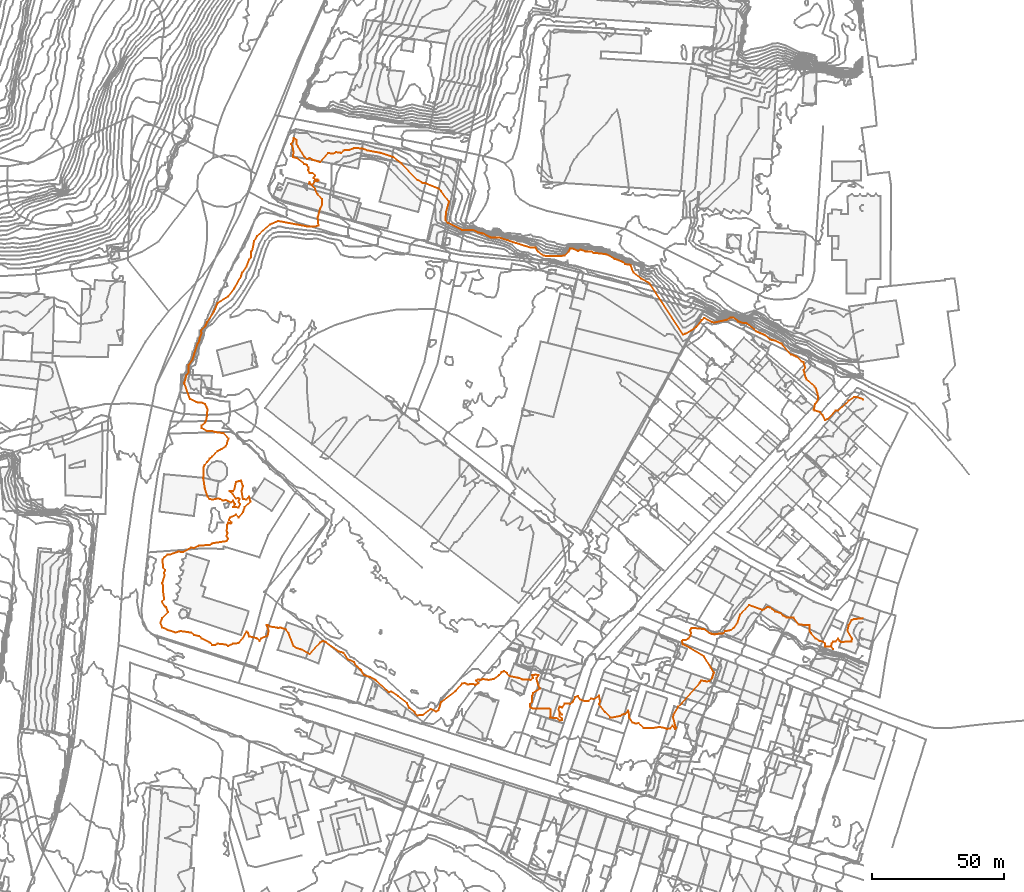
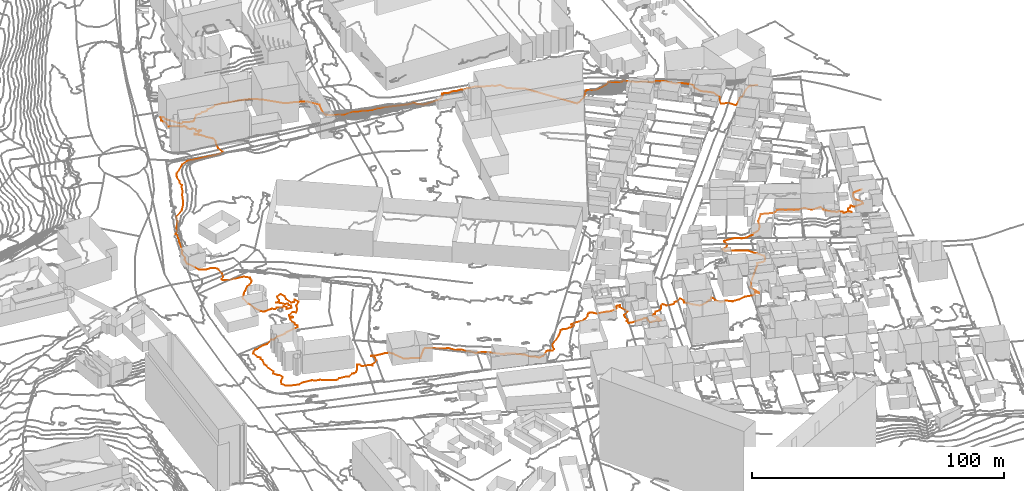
# Not in any storey, part 260 of 419: 1 proxy.
"""IFC2X3 model written with IfcOpenShell, lengths in metres."""

from ifc_helpers import new_model, entity, si_unit, frame, origin_with_axes, place, context, subcontext, project, element, save


model = new_model("IFC2X3")

# Units and contexts
model_context = context("Model", 3, precision=1e-05, world=origin_with_axes())
body_context = subcontext(model_context, "Body", "Model", "MODEL_VIEW")
ifc_project = project(units=[si_unit("AREAUNIT", "SQUARE_METRE"), si_unit("LENGTHUNIT", "METRE")], contexts=[model_context])

# Proxy
proxy_placement = place(None, frame((709.3777424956, 217.8976909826, 78.0), z_axis=(0.0, 0.0, 1.0), x_axis=(1.0, 0.0, 0.0)))
element("IfcBuildingElementProxy", 1, at=proxy_placement, Name="Contour 78.0 m", ObjectType="NOTDEFINED", context=body_context, shape_type="GeometricCurveSet", body=[
    entity("IfcGeometricCurveSet", [entity("IfcPolyline", [entity("IfcCartesianPoint", [267.2142779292, 1.666666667, 0.0]), entity("IfcCartesianPoint", [263.7142779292, 1.333333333, 0.0]), entity("IfcCartesianPoint", [262.7577648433, 1.0, 0.0]), entity("IfcCartesianPoint", [261.6857002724, -1.0, 0.0]), entity("IfcCartesianPoint", [261.1934482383, -3.0, 0.0]), entity("IfcCartesianPoint", [262.9423434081, -6.0, 0.0]), entity("IfcCartesianPoint", [262.7142779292, -7.2221939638, 0.0]), entity("IfcCartesianPoint", [258.7142779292, -7.333333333, 0.0]), entity("IfcCartesianPoint", [258.2142654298, -7.0, 0.0]), entity("IfcCartesianPoint", [257.7142779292, -6.0000249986, 0.0]), entity("IfcCartesianPoint", [256.7142779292, -7.1428882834, 0.0]), entity("IfcCartesianPoint", [255.7142779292, -7.2000305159, 0.0]), entity("IfcCartesianPoint", [255.2142904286, -8.0, 0.0]), entity("IfcCartesianPoint", [254.9643256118, -9.0, 0.0]), entity("IfcCartesianPoint", [255.7142779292, -10.0090109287, 0.0]), entity("IfcCartesianPoint", [254.7142779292, -9.0270325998, 0.0]), entity("IfcCartesianPoint", [252.7142779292, -9.0833298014, 0.0]), entity("IfcCartesianPoint", [252.7142754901, -8.0, 0.0]), entity("IfcCartesianPoint", [251.7142779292, -7.1632672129, 0.0]), entity("IfcCartesianPoint", [250.5714441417, -7.0, 0.0]), entity("IfcCartesianPoint", [249.1142474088, -6.0, 0.0]), entity("IfcCartesianPoint", [247.3143084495, -4.0, 0.0]), entity("IfcCartesianPoint", [246.8393017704, -3.0, 0.0]), entity("IfcCartesianPoint", [246.7142779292, -1.0000500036, 0.0]), entity("IfcCartesianPoint", [242.7142779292, -0.7500238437, 0.0]), entity("IfcCartesianPoint", [240.7142779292, 1.8333121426, 0.0]), entity("IfcCartesianPoint", [238.047696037, 2.0, 0.0]), entity("IfcCartesianPoint", [236.7142779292, 2.6250238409, 0.0]), entity("IfcCartesianPoint", [235.7142779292, 3.5714441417, 0.0]), entity("IfcCartesianPoint", [233.7142779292, 4.2727146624, 0.0]), entity("IfcCartesianPoint", [231.7142779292, 5.7778060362, 0.0]), entity("IfcCartesianPoint", [230.7142779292, 5.9166507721, 0.0]), entity("IfcCartesianPoint", [229.3809869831, 5.0, 0.0]), entity("IfcCartesianPoint", [228.7142779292, 4.8518508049, 0.0]), entity("IfcCartesianPoint", [223.7142779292, 6.7391362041, 0.0]), entity("IfcCartesianPoint", [220.4142855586, 3.0, 0.0]), entity("IfcCartesianPoint", [219.3392689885, 0.0, 0.0]), entity("IfcCartesianPoint", [217.9751417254, -2.0, 0.0]), entity("IfcCartesianPoint", [216.7142779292, -2.8787857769, 0.0]), entity("IfcCartesianPoint", [214.7142779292, -3.2963025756, 0.0]), entity("IfcCartesianPoint", [213.7142779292, -4.1770815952, 0.0]), entity("IfcCartesianPoint", [212.7142779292, -4.0800018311, 0.0]), entity("IfcCartesianPoint", [210.7142779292, -4.4629621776, 0.0]), entity("IfcCartesianPoint", [209.7142779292, -4.2857133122, 0.0]), entity("IfcCartesianPoint", [208.7142779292, -4.0140875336, 0.0]), entity("IfcCartesianPoint", [206.7142779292, -2.475410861, 0.0]), entity("IfcCartesianPoint", [202.2143279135, -2.0, 0.0]), entity("IfcCartesianPoint", [201.7142779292, -2.3334181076, 0.0]), entity("IfcCartesianPoint", [201.4643017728, -3.0, 0.0]), entity("IfcCartesianPoint", [201.7142850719, -4.0, 0.0]), entity("IfcCartesianPoint", [201.5143084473, -5.0, 0.0]), entity("IfcCartesianPoint", [200.7142879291, -6.0, 0.0]), entity("IfcCartesianPoint", [199.7142779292, -6.666666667, 0.0]), entity("IfcCartesianPoint", [198.7142779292, -6.666666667, 0.0]), entity("IfcCartesianPoint", [198.3809445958, -7.0, 0.0]), entity("IfcCartesianPoint", [198.5198346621, -8.0, 0.0]), entity("IfcCartesianPoint", [198.7142779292, -8.3684147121, 0.0]), entity("IfcCartesianPoint", [199.7142779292, -8.714332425, 0.0]), entity("IfcCartesianPoint", [206.7142779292, -12.8500038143, 0.0]), entity("IfcCartesianPoint", [210.4342791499, -19.0, 0.0]), entity("IfcCartesianPoint", [209.7755001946, -21.0, 0.0]), entity("IfcCartesianPoint", [208.7142779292, -22.1999949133, 0.0]), entity("IfcCartesianPoint", [207.7142779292, -22.3703693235, 0.0]), entity("IfcCartesianPoint", [205.5142657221, -22.0, 0.0]), entity("IfcCartesianPoint", [205.0267898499, -23.0, 0.0]), entity("IfcCartesianPoint", [196.8809375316, -32.0, 0.0]), entity("IfcCartesianPoint", [195.0672085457, -35.0, 0.0]), entity("IfcCartesianPoint", [194.9065957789, -36.0, 0.0]), entity("IfcCartesianPoint", [195.9942767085, -40.0, 0.0]), entity("IfcCartesianPoint", [195.7142779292, -40.4666598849, 0.0]), entity("IfcCartesianPoint", [194.7142779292, -39.0769366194, 0.0]), entity("IfcCartesianPoint", [193.7142779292, -40.1999694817, 0.0]), entity("IfcCartesianPoint", [192.7142779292, -40.3912956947, 0.0]), entity("IfcCartesianPoint", [189.7142779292, -39.6750019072, 0.0]), entity("IfcCartesianPoint", [186.7142779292, -40.1562596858, 0.0]), entity("IfcCartesianPoint", [183.7142779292, -40.0000022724, 0.0]), entity("IfcCartesianPoint", [181.7142779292, -38.2142779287, 0.0]), entity("IfcCartesianPoint", [180.7142779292, -38.3888865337, 0.0]), entity("IfcCartesianPoint", [179.4642779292, -38.0, 0.0]), entity("IfcCartesianPoint", [178.2142707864, -36.0, 0.0]), entity("IfcCartesianPoint", [178.0476112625, -34.0, 0.0]), entity("IfcCartesianPoint", [177.7142779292, -33.5000124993, 0.0]), entity("IfcCartesianPoint", [176.7142779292, -34.79165872, 0.0]), entity("IfcCartesianPoint", [175.7142779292, -34.8695681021, 0.0]), entity("IfcCartesianPoint", [174.7142779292, -35.4706040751, 0.0]), entity("IfcCartesianPoint", [171.7142779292, -36.1052483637, 0.0]), entity("IfcCartesianPoint", [171.047696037, -36.0, 0.0]), entity("IfcCartesianPoint", [169.047696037, -34.0, 0.0]), entity("IfcCartesianPoint", [166.7142779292, -31.0000500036, 0.0]), entity("IfcCartesianPoint", [167.2142279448, -30.0, 0.0]), entity("IfcCartesianPoint", [166.7142779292, -27.8000305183, 0.0]), entity("IfcCartesianPoint", [164.7142779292, -29.1111299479, 0.0]), entity("IfcCartesianPoint", [163.7142779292, -28.8333545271, 0.0]), entity("IfcCartesianPoint", [162.7142779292, -29.8571117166, 0.0]), entity("IfcCartesianPoint", [160.7142779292, -29.714332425, 0.0]), entity("IfcCartesianPoint", [159.7142779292, -29.3332909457, 0.0]), entity("IfcCartesianPoint", [158.7142779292, -27.9166507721, 0.0]), entity("IfcCartesianPoint", [157.7142779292, -28.2666700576, 0.0]), entity("IfcCartesianPoint", [156.7142779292, -30.2500476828, 0.0]), entity("IfcCartesianPoint", [155.7142779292, -30.8666836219, 0.0]), entity("IfcCartesianPoint", [153.7142779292, -30.8461764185, 0.0]), entity("IfcCartesianPoint", [152.7142779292, -32.2000000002, 0.0]), entity("IfcCartesianPoint", [151.6772335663, -32.0, 0.0]), entity("IfcCartesianPoint", [151.3664489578, -33.0, 0.0]), entity("IfcCartesianPoint", [151.7142779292, -33.8888700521, 0.0]), entity("IfcCartesianPoint", [152.7142904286, -35.0, 0.0]), entity("IfcCartesianPoint", [151.7142779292, -34.2500476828, 0.0]), entity("IfcCartesianPoint", [151.7142779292, -35.7499523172, 0.0]), entity("IfcCartesianPoint", [152.7142779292, -36.4999500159, 0.0]), entity("IfcCartesianPoint", [152.7142779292, -37.0526421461, 0.0]), entity("IfcCartesianPoint", [151.7142779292, -37.1578894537, 0.0]), entity("IfcCartesianPoint", [150.7142779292, -36.3529306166, 0.0]), entity("IfcCartesianPoint", [148.7142779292, -36.1739144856, 0.0]), entity("IfcCartesianPoint", [148.2142654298, -36.0, 0.0]), entity("IfcCartesianPoint", [148.3809869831, -33.0, 0.0]), entity("IfcCartesianPoint", [147.7142779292, -32.7333299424, 0.0]), entity("IfcCartesianPoint", [141.7142779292, -32.666666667, 0.0]), entity("IfcCartesianPoint", [140.7142779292, -32.3749940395, 0.0]), entity("IfcCartesianPoint", [140.5207358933, -32.0, 0.0]), entity("IfcCartesianPoint", [140.4851115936, -31.0, 0.0]), entity("IfcCartesianPoint", [141.325391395, -30.0, 0.0]), entity("IfcCartesianPoint", [141.370525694, -28.0, 0.0]), entity("IfcCartesianPoint", [141.7142779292, -26.7272853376, 0.0]), entity("IfcCartesianPoint", [144.3143084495, -25.0, 0.0]), entity("IfcCartesianPoint", [143.7142612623, -24.0, 0.0]), entity("IfcCartesianPoint", [142.9642779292, -21.0, 0.0]), entity("IfcCartesianPoint", [143.8506352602, -20.0, 0.0]), entity("IfcCartesianPoint", [142.7142779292, -19.7692352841, 0.0]), entity("IfcCartesianPoint", [141.3296535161, -20.0, 0.0]), entity("IfcCartesianPoint", [141.6373413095, -21.0, 0.0]), entity("IfcCartesianPoint", [140.7142779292, -21.75, 0.0]), entity("IfcCartesianPoint", [137.7142779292, -21.5833174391, 0.0]), entity("IfcCartesianPoint", [136.2142529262, -21.0, 0.0]), entity("IfcCartesianPoint", [132.7142779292, -20.3749761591, 0.0]), entity("IfcCartesianPoint", [131.7142779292, -19.1250238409, 0.0]), entity("IfcCartesianPoint", [130.7142779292, -18.5000499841, 0.0]), entity("IfcCartesianPoint", [129.7142779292, -18.75, 0.0]), entity("IfcCartesianPoint", [128.7142779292, -20.0000099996, 0.0]), entity("IfcCartesianPoint", [126.7142779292, -21.4583399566, 0.0]), entity("IfcCartesianPoint", [124.7142779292, -21.7812507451, 0.0]), entity("IfcCartesianPoint", [122.7142779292, -21.5000083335, 0.0]), entity("IfcCartesianPoint", [121.7142779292, -21.75, 0.0]), entity("IfcCartesianPoint", [120.7142779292, -21.6363573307, 0.0]), entity("IfcCartesianPoint", [120.0989023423, -22.0, 0.0]), entity("IfcCartesianPoint", [120.9643256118, -23.0, 0.0]), entity("IfcCartesianPoint", [119.7142779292, -23.6665818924, 0.0]), entity("IfcCartesianPoint", [118.7142779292, -23.3334181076, 0.0]), entity("IfcCartesianPoint", [116.7142779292, -23.5000250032, 0.0]), entity("IfcCartesianPoint", [115.7142779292, -23.0000099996, 0.0]), entity("IfcCartesianPoint", [114.7142779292, -23.1428882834, 0.0]), entity("IfcCartesianPoint", [112.1587255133, -26.0, 0.0]), entity("IfcCartesianPoint", [106.7142779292, -30.2272737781, 0.0]), entity("IfcCartesianPoint", [105.7142779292, -33.2727146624, 0.0]), entity("IfcCartesianPoint", [104.7142779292, -33.8923084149, 0.0]), entity("IfcCartesianPoint", [102.7142779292, -32.8196713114, 0.0]), entity("IfcCartesianPoint", [99.7142779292, -35.1578862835, 0.0]), entity("IfcCartesianPoint", [97.7142779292, -35.2500095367, 0.0]), entity("IfcCartesianPoint", [96.59664935, -34.0, 0.0]), entity("IfcCartesianPoint", [94.7142779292, -32.5624910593, 0.0]), entity("IfcCartesianPoint", [93.7142779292, -30.638302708, 0.0]), entity("IfcCartesianPoint", [90.4511073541, -28.0, 0.0]), entity("IfcCartesianPoint", [87.7142779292, -26.1999898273, 0.0]), entity("IfcCartesianPoint", [86.7142779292, -26.4166825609, 0.0]), entity("IfcCartesianPoint", [81.7142779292, -21.7878808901, 0.0]), entity("IfcCartesianPoint", [79.7142779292, -20.6874990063, 0.0]), entity("IfcCartesianPoint", [77.4065720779, -20.0, 0.0]), entity("IfcCartesianPoint", [76.3447159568, -18.0, 0.0]), entity("IfcCartesianPoint", [74.7142779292, -16.7400054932, 0.0]), entity("IfcCartesianPoint", [73.6872453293, -15.0, 0.0]), entity("IfcCartesianPoint", [71.3342730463, -14.0, 0.0]), entity("IfcCartesianPoint", [69.7142779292, -11.513891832, 0.0]), entity("IfcCartesianPoint", [67.7142779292, -10.9649181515, 0.0]), entity("IfcCartesianPoint", [62.7142779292, -7.3559328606, 0.0]), entity("IfcCartesianPoint", [61.7142779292, -6.9722163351, 0.0]), entity("IfcCartesianPoint", [60.7142779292, -7.5000099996, 0.0]), entity("IfcCartesianPoint", [56.7142779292, -12.0000099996, 0.0]), entity("IfcCartesianPoint", [53.7142779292, -10.1999694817, 0.0]), entity("IfcCartesianPoint", [51.7142779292, -9.7000076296, 0.0]), entity("IfcCartesianPoint", [50.7142779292, -9.0000199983, 0.0]), entity("IfcCartesianPoint", [48.7142679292, -4.0, 0.0]), entity("IfcCartesianPoint", [47.7142779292, -2.5999847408, 0.0]), entity("IfcCartesianPoint", [45.7142779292, -1.9166507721, 0.0]), entity("IfcCartesianPoint", [44.7142779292, -2.0000111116, 0.0]), entity("IfcCartesianPoint", [41.7142779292, -1.5000083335, 0.0]), entity("IfcCartesianPoint", [40.7142779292, -0.9000152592, 0.0]), entity("IfcCartesianPoint", [40.3809869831, -1.0, 0.0]), entity("IfcCartesianPoint", [41.2142879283, -3.0, 0.0]), entity("IfcCartesianPoint", [40.7142850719, -5.0, 0.0]), entity("IfcCartesianPoint", [38.2143029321, -6.0, 0.0]), entity("IfcCartesianPoint", [37.7142779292, -7.0000249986, 0.0]), entity("IfcCartesianPoint", [36.7142779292, -6.0000249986, 0.0]), entity("IfcCartesianPoint", [33.7142779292, -5.2500476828, 0.0]), entity("IfcCartesianPoint", [33.4286103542, -4.0, 0.0]), entity("IfcCartesianPoint", [32.7142779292, -3.3749761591, 0.0]), entity("IfcCartesianPoint", [31.2143279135, -6.0, 0.0]), entity("IfcCartesianPoint", [29.7142779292, -7.714332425, 0.0]), entity("IfcCartesianPoint", [28.7142779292, -8.0000124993, 0.0]), entity("IfcCartesianPoint", [27.7142779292, -7.8999771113, 0.0]), entity("IfcCartesianPoint", [25.7142779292, -8.8749761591, 0.0]), entity("IfcCartesianPoint", [24.7142779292, -8.3334181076, 0.0]), entity("IfcCartesianPoint", [21.7142779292, -8.0000090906, 0.0]), entity("IfcCartesianPoint", [20.7142779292, -8.5238147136, 0.0]), entity("IfcCartesianPoint", [19.7142779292, -8.4615294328, 0.0]), entity("IfcCartesianPoint", [18.7142779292, -7.5624910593, 0.0]), entity("IfcCartesianPoint", [15.7142779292, -6.0000124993, 0.0]), entity("IfcCartesianPoint", [14.7142779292, -5.1666878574, 0.0]), entity("IfcCartesianPoint", [12.7142779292, -4.6363573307, 0.0]), entity("IfcCartesianPoint", [11.7142779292, -3.8125029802, 0.0]), entity("IfcCartesianPoint", [7.7142779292, -3.25, 0.0]), entity("IfcCartesianPoint", [5.7142779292, -3.75, 0.0]), entity("IfcCartesianPoint", [2.7142779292, -2.8182007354, 0.0]), entity("IfcCartesianPoint", [0.7142779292, -1.7857220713, 0.0]), entity("IfcCartesianPoint", [0.0, 0.0, 0.0]), entity("IfcCartesianPoint", [0.7142779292, 1.8000305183, 0.0]), entity("IfcCartesianPoint", [2.8254078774, 4.0, 0.0]), entity("IfcCartesianPoint", [2.2142279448, 6.0, 0.0]), entity("IfcCartesianPoint", [1.7142779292, 6.2000305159, 0.0]), entity("IfcCartesianPoint", [0.5714441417, 8.0, 0.0]), entity("IfcCartesianPoint", [1.4643017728, 9.0, 0.0]), entity("IfcCartesianPoint", [1.0142702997, 12.0, 0.0]), entity("IfcCartesianPoint", [1.0476282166, 14.0, 0.0]), entity("IfcCartesianPoint", [0.7142707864, 15.0, 0.0]), entity("IfcCartesianPoint", [1.6142550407, 18.0, 0.0]), entity("IfcCartesianPoint", [1.3809445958, 19.0, 0.0]), entity("IfcCartesianPoint", [1.8571662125, 20.0, 0.0]), entity("IfcCartesianPoint", [1.0142702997, 21.0, 0.0]), entity("IfcCartesianPoint", [0.8393017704, 24.0, 0.0]), entity("IfcCartesianPoint", [1.5475900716, 25.0, 0.0]), entity("IfcCartesianPoint", [2.7142779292, 25.8095186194, 0.0]), entity("IfcCartesianPoint", [3.7142779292, 25.9000152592, 0.0]), entity("IfcCartesianPoint", [6.7142779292, 26.9687432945, 0.0]), entity("IfcCartesianPoint", [8.7142779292, 26.8235346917, 0.0]), entity("IfcCartesianPoint", [11.7142779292, 28.5293959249, 0.0]), entity("IfcCartesianPoint", [12.7142779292, 28.333333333, 0.0]), entity("IfcCartesianPoint", [14.7142779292, 29.2727146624, 0.0]), entity("IfcCartesianPoint", [18.7142779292, 29.5333401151, 0.0]), entity("IfcCartesianPoint", [19.7142779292, 30.1428882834, 0.0]), entity("IfcCartesianPoint", [25.2142279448, 31.0, 0.0]), entity("IfcCartesianPoint", [25.7142445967, 32.0, 0.0]), entity("IfcCartesianPoint", [25.1142474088, 33.0, 0.0]), entity("IfcCartesianPoint", [25.4642302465, 34.0, 0.0]), entity("IfcCartesianPoint", [25.2142529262, 35.0, 0.0]), entity("IfcCartesianPoint", [25.3808598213, 37.0, 0.0]), entity("IfcCartesianPoint", [25.7142779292, 38.0000999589, 0.0]), entity("IfcCartesianPoint", [26.7142779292, 37.60003052, 0.0]), entity("IfcCartesianPoint", [27.1142474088, 38.0, 0.0]), entity("IfcCartesianPoint", [26.047696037, 39.0, 0.0]), entity("IfcCartesianPoint", [26.4642302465, 40.0, 0.0]), entity("IfcCartesianPoint", [28.7142779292, 41.0000249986, 0.0]), entity("IfcCartesianPoint", [29.7142779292, 40.0000999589, 0.0]), entity("IfcCartesianPoint", [31.4286103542, 42.0, 0.0]), entity("IfcCartesianPoint", [32.0475688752, 44.0, 0.0]), entity("IfcCartesianPoint", [34.2142529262, 46.0, 0.0]), entity("IfcCartesianPoint", [33.7142779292, 47.9999499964, 0.0]), entity("IfcCartesianPoint", [32.7142779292, 46.7999694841, 0.0]), entity("IfcCartesianPoint", [31.3808598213, 47.0, 0.0]), entity("IfcCartesianPoint", [30.8809657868, 50.0, 0.0]), entity("IfcCartesianPoint", [31.3808598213, 52.0, 0.0]), entity("IfcCartesianPoint", [30.7142779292, 53.9999000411, 0.0]), entity("IfcCartesianPoint", [28.7142779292, 53.4999500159, 0.0]), entity("IfcCartesianPoint", [28.2142904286, 51.0, 0.0]), entity("IfcCartesianPoint", [27.7142779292, 49.9999000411, 0.0]), entity("IfcCartesianPoint", [26.2143029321, 50.0, 0.0]), entity("IfcCartesianPoint", [27.4642302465, 49.0, 0.0]), entity("IfcCartesianPoint", [28.7142779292, 47.2000305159, 0.0]), entity("IfcCartesianPoint", [29.7142779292, 47.3334181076, 0.0]), entity("IfcCartesianPoint", [30.047696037, 47.0, 0.0]), entity("IfcCartesianPoint", [29.7143778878, 46.0, 0.0]), entity("IfcCartesianPoint", [30.3809869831, 45.0, 0.0]), entity("IfcCartesianPoint", [29.7142779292, 43.7499523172, 0.0]), entity("IfcCartesianPoint", [27.7142579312, 44.0, 0.0]), entity("IfcCartesianPoint", [28.3143084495, 45.0, 0.0]), entity("IfcCartesianPoint", [27.7142779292, 46.3334181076, 0.0]), entity("IfcCartesianPoint", [26.7142779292, 45.666666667, 0.0]), entity("IfcCartesianPoint", [24.7142779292, 46.6667090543, 0.0]), entity("IfcCartesianPoint", [23.7142779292, 46.3334181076, 0.0]), entity("IfcCartesianPoint", [22.7141779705, 47.0, 0.0]), entity("IfcCartesianPoint", [21.7142779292, 47.1428882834, 0.0]), entity("IfcCartesianPoint", [19.7142779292, 46.7499523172, 0.0]), entity("IfcCartesianPoint", [18.7142779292, 46.9999900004, 0.0]), entity("IfcCartesianPoint", [17.9364718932, 48.0, 0.0]), entity("IfcCartesianPoint", [16.9142474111, 51.0, 0.0]), entity("IfcCartesianPoint", [16.3142779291, 55.0, 0.0]), entity("IfcCartesianPoint", [16.4039385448, 59.0, 0.0]), entity("IfcCartesianPoint", [16.7142779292, 59.8999771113, 0.0]), entity("IfcCartesianPoint", [17.8254078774, 61.0, 0.0]), entity("IfcCartesianPoint", [18.7142779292, 62.4000152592, 0.0]), entity("IfcCartesianPoint", [19.7142779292, 63.1000228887, 0.0]), entity("IfcCartesianPoint", [21.7142779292, 65.3077058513, 0.0]), entity("IfcCartesianPoint", [23.3143084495, 66.0, 0.0]), entity("IfcCartesianPoint", [24.7142529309, 67.0, 0.0]), entity("IfcCartesianPoint", [25.3808598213, 68.0, 0.0]), entity("IfcCartesianPoint", [25.4642302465, 69.0, 0.0]), entity("IfcCartesianPoint", [25.9643256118, 70.0, 0.0]), entity("IfcCartesianPoint", [24.0219837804, 72.0, 0.0]), entity("IfcCartesianPoint", [20.7142779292, 72.4400024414, 0.0]), entity("IfcCartesianPoint", [19.7142779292, 72.8260855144, 0.0]), entity("IfcCartesianPoint", [17.7142779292, 72.7419338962, 0.0]), entity("IfcCartesianPoint", [15.6373413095, 74.0, 0.0]), entity("IfcCartesianPoint", [15.6142931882, 75.0, 0.0]), entity("IfcCartesianPoint", [17.0476112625, 76.0, 0.0]), entity("IfcCartesianPoint", [17.6309287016, 78.0, 0.0]), entity("IfcCartesianPoint", [17.8960771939, 81.0, 0.0]), entity("IfcCartesianPoint", [17.6373413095, 82.0, 0.0]), entity("IfcCartesianPoint", [17.047696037, 83.0, 0.0]), entity("IfcCartesianPoint", [15.7142779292, 83.6129008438, 0.0]), entity("IfcCartesianPoint", [13.7142779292, 83.7727280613, 0.0]), entity("IfcCartesianPoint", [11.2597303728, 85.0, 0.0]), entity("IfcCartesianPoint", [9.0779117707, 91.0, 0.0]), entity("IfcCartesianPoint", [9.8155459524, 94.0, 0.0]), entity("IfcCartesianPoint", [10.6289124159, 95.0, 0.0]), entity("IfcCartesianPoint", [10.7940657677, 98.0, 0.0]), entity("IfcCartesianPoint", [12.1595906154, 100.0, 0.0]), entity("IfcCartesianPoint", [14.1231460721, 106.0, 0.0]), entity("IfcCartesianPoint", [14.7850332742, 107.0, 0.0]), entity("IfcCartesianPoint", [14.8794573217, 108.0, 0.0]), entity("IfcCartesianPoint", [15.6666591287, 110.0, 0.0]), entity("IfcCartesianPoint", [15.3954367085, 111.0, 0.0]), entity("IfcCartesianPoint", [17.2405948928, 113.0, 0.0]), entity("IfcCartesianPoint", [17.7142779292, 114.3043471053, 0.0]), entity("IfcCartesianPoint", [20.2698334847, 118.0, 0.0]), entity("IfcCartesianPoint", [21.7142779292, 121.5238147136, 0.0]), entity("IfcCartesianPoint", [25.7142779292, 124.0000027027, 0.0]), entity("IfcCartesianPoint", [28.0547103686, 127.0, 0.0]), entity("IfcCartesianPoint", [30.7142779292, 131.8260855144, 0.0]), entity("IfcCartesianPoint", [31.0193611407, 133.0, 0.0]), entity("IfcCartesianPoint", [32.7142779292, 135.3124955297, 0.0]), entity("IfcCartesianPoint", [33.7142779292, 137.9629556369, 0.0]), entity("IfcCartesianPoint", [34.4769893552, 139.0, 0.0]), entity("IfcCartesianPoint", [34.5339492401, 141.0, 0.0]), entity("IfcCartesianPoint", [35.0532579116, 142.0, 0.0]), entity("IfcCartesianPoint", [35.6078887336, 145.0, 0.0]), entity("IfcCartesianPoint", [36.6892726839, 147.0, 0.0]), entity("IfcCartesianPoint", [41.7142779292, 151.418605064, 0.0]), entity("IfcCartesianPoint", [44.7142779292, 152.6734655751, 0.0]), entity("IfcCartesianPoint", [55.7142779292, 150.6153855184, 0.0]), entity("IfcCartesianPoint", [58.7142779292, 150.5000035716, 0.0]), entity("IfcCartesianPoint", [60.1142931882, 151.0, 0.0]), entity("IfcCartesianPoint", [59.8143008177, 154.0, 0.0]), entity("IfcCartesianPoint", [60.7142779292, 157.3334181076, 0.0]), entity("IfcCartesianPoint", [61.4643017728, 159.0, 0.0]), entity("IfcCartesianPoint", [61.4642302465, 161.0, 0.0]), entity("IfcCartesianPoint", [59.7142779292, 162.9999499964, 0.0]), entity("IfcCartesianPoint", [58.7142529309, 165.0, 0.0]), entity("IfcCartesianPoint", [56.4642302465, 167.0, 0.0]), entity("IfcCartesianPoint", [56.7142779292, 167.5000499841, 0.0]), entity("IfcCartesianPoint", [57.7142779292, 166.3334181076, 0.0]), entity("IfcCartesianPoint", [58.7142779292, 167.7999694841, 0.0]), entity("IfcCartesianPoint", [60.047696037, 168.0, 0.0]), entity("IfcCartesianPoint", [59.7142779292, 168.4999500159, 0.0]), entity("IfcCartesianPoint", [58.7142779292, 168.4999500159, 0.0]), entity("IfcCartesianPoint", [58.2142279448, 169.0, 0.0]), entity("IfcCartesianPoint", [58.7142529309, 170.0, 0.0]), entity("IfcCartesianPoint", [57.7142779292, 170.9999750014, 0.0]), entity("IfcCartesianPoint", [56.7142779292, 170.9999000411, 0.0]), entity("IfcCartesianPoint", [56.2142529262, 172.0, 0.0]), entity("IfcCartesianPoint", [56.3143084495, 173.0, 0.0]), entity("IfcCartesianPoint", [55.7142779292, 173.999966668, 0.0]), entity("IfcCartesianPoint", [54.7142779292, 174.39996948, 0.0]), entity("IfcCartesianPoint", [51.7142779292, 176.6153755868, 0.0]), entity("IfcCartesianPoint", [50.3809445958, 177.0, 0.0]), entity("IfcCartesianPoint", [50.6309287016, 179.0, 0.0]), entity("IfcCartesianPoint", [50.2857220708, 181.0, 0.0]), entity("IfcCartesianPoint", [49.6892726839, 182.0, 0.0]), entity("IfcCartesianPoint", [50.5142779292, 183.0, 0.0]), entity("IfcCartesianPoint", [50.7142779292, 184.2381021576, 0.0]), entity("IfcCartesianPoint", [51.7142779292, 183.5555649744, 0.0]), entity("IfcCartesianPoint", [51.8571117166, 182.0, 0.0]), entity("IfcCartesianPoint", [52.3809445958, 181.0, 0.0]), entity("IfcCartesianPoint", [54.7976271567, 177.0, 0.0]), entity("IfcCartesianPoint", [55.7142779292, 176.1538235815, 0.0]), entity("IfcCartesianPoint", [56.7142779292, 176.666666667, 0.0]), entity("IfcCartesianPoint", [57.7142779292, 176.0000090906, 0.0]), entity("IfcCartesianPoint", [60.7142779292, 175.0769366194, 0.0]), entity("IfcCartesianPoint", [63.7142779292, 178.4706040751, 0.0]), entity("IfcCartesianPoint", [65.7142779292, 178.333333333, 0.0]), entity("IfcCartesianPoint", [66.7142779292, 178.8461515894, 0.0]), entity("IfcCartesianPoint", [68.7142779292, 178.5999999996, 0.0]), entity("IfcCartesianPoint", [69.7142779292, 179.5531945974, 0.0]), entity("IfcCartesianPoint", [71.7142779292, 179.714283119, 0.0]), entity("IfcCartesianPoint", [73.7142779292, 180.4199981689, 0.0]), entity("IfcCartesianPoint", [76.7142779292, 180.2592576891, 0.0]), entity("IfcCartesianPoint", [78.7142779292, 179.4814846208, 0.0]), entity("IfcCartesianPoint", [83.7142779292, 178.5932214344, 0.0]), entity("IfcCartesianPoint", [88.409935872, 177.0, 0.0]), entity("IfcCartesianPoint", [91.7142779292, 174.5806507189, 0.0]), entity("IfcCartesianPoint", [97.7142779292, 168.3225782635, 0.0]), entity("IfcCartesianPoint", [99.7142779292, 167.2068874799, 0.0]), entity("IfcCartesianPoint", [100.7142779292, 167.0624895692, 0.0]), entity("IfcCartesianPoint", [105.7142779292, 164.9677355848, 0.0]), entity("IfcCartesianPoint", [106.7142779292, 164.1428519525, 0.0]), entity("IfcCartesianPoint", [109.7142807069, 160.0, 0.0]), entity("IfcCartesianPoint", [108.5440617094, 156.0, 0.0]), entity("IfcCartesianPoint", [108.4689995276, 153.0, 0.0]), entity("IfcCartesianPoint", [109.2803145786, 152.0, 0.0]), entity("IfcCartesianPoint", [114.7142779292, 149.2758611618, 0.0]), entity("IfcCartesianPoint", [118.7142779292, 149.2931027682, 0.0]), entity("IfcCartesianPoint", [120.7142779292, 148.3786000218, 0.0]), entity("IfcCartesianPoint", [122.4355926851, 148.0, 0.0]), entity("IfcCartesianPoint", [125.7142779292, 146.4117652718, 0.0]), entity("IfcCartesianPoint", [128.7142779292, 146.36781458, 0.0]), entity("IfcCartesianPoint", [140.7142779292, 142.5316426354, 0.0]), entity("IfcCartesianPoint", [142.7142779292, 142.55881924, 0.0]), entity("IfcCartesianPoint", [143.5194718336, 141.0, 0.0]), entity("IfcCartesianPoint", [145.7142779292, 139.5000011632, 0.0]), entity("IfcCartesianPoint", [147.7142779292, 139.2795720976, 0.0]), entity("IfcCartesianPoint", [153.7142779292, 139.4825190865, 0.0]), entity("IfcCartesianPoint", [155.2292489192, 141.0, 0.0]), entity("IfcCartesianPoint", [155.7142779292, 142.25, 0.0]), entity("IfcCartesianPoint", [156.7142779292, 142.1722980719, 0.0]), entity("IfcCartesianPoint", [158.7142779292, 141.2954535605, 0.0]), entity("IfcCartesianPoint", [159.7142779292, 141.7611906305, 0.0]), entity("IfcCartesianPoint", [161.7142779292, 141.1157405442, 0.0]), entity("IfcCartesianPoint", [163.7142779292, 141.0642201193, 0.0]), entity("IfcCartesianPoint", [164.7142779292, 140.5714285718, 0.0]), entity("IfcCartesianPoint", [169.7142779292, 140.0240954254, 0.0]), entity("IfcCartesianPoint", [172.7142779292, 138.2916661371, 0.0]), entity("IfcCartesianPoint", [175.7142779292, 137.1588218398, 0.0]), entity("IfcCartesianPoint", [176.7142779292, 136.2857154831, 0.0]), entity("IfcCartesianPoint", [178.8012315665, 136.0, 0.0]), entity("IfcCartesianPoint", [179.8984889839, 133.0, 0.0]), entity("IfcCartesianPoint", [182.7142779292, 130.7777796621, 0.0]), entity("IfcCartesianPoint", [185.9365001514, 129.0, 0.0]), entity("IfcCartesianPoint", [198.7142779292, 109.5526331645, 0.0]), entity("IfcCartesianPoint", [199.7142779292, 109.8048753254, 0.0]), entity("IfcCartesianPoint", [203.7142779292, 112.333333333, 0.0]), entity("IfcCartesianPoint", [205.7618952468, 115.0, 0.0]), entity("IfcCartesianPoint", [206.7142779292, 115.8108110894, 0.0]), entity("IfcCartesianPoint", [209.7142779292, 114.188238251, 0.0]), entity("IfcCartesianPoint", [210.7142779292, 114.1027408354, 0.0]), entity("IfcCartesianPoint", [215.7142779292, 115.2488878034, 0.0]), entity("IfcCartesianPoint", [216.7142779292, 116.0725561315, 0.0]), entity("IfcCartesianPoint", [217.7142779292, 116.0287775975, 0.0]), entity("IfcCartesianPoint", [219.7142779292, 114.5235845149, 0.0]), entity("IfcCartesianPoint", [221.7142779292, 113.8359380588, 0.0]), entity("IfcCartesianPoint", [222.7142779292, 113.9433983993, 0.0]), entity("IfcCartesianPoint", [226.7142779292, 110.6388865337, 0.0]), entity("IfcCartesianPoint", [229.7142779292, 109.4065947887, 0.0]), entity("IfcCartesianPoint", [231.7142779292, 107.5932214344, 0.0]), entity("IfcCartesianPoint", [233.7142779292, 107.2244902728, 0.0]), entity("IfcCartesianPoint", [236.1233662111, 106.0, 0.0]), entity("IfcCartesianPoint", [239.7142779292, 101.9512272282, 0.0]), entity("IfcCartesianPoint", [241.7142779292, 101.2195053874, 0.0]), entity("IfcCartesianPoint", [243.7142779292, 99.3015888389, 0.0]), entity("IfcCartesianPoint", [244.4450505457, 99.0, 0.0]), entity("IfcCartesianPoint", [245.126045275, 97.0, 0.0]), entity("IfcCartesianPoint", [244.5714168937, 96.0, 0.0]), entity("IfcCartesianPoint", [245.3960992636, 93.0, 0.0]), entity("IfcCartesianPoint", [245.7142779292, 92.4166825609, 0.0]), entity("IfcCartesianPoint", [248.7142779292, 89.8000305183, 0.0]), entity("IfcCartesianPoint", [249.2857220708, 89.0, 0.0]), entity("IfcCartesianPoint", [249.8907432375, 87.0, 0.0]), entity("IfcCartesianPoint", [250.126045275, 85.0, 0.0]), entity("IfcCartesianPoint", [248.8642741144, 83.0, 0.0]), entity("IfcCartesianPoint", [248.4065720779, 81.0, 0.0]), entity("IfcCartesianPoint", [248.7142779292, 80.6363573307, 0.0]), entity("IfcCartesianPoint", [250.8809657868, 80.0, 0.0]), entity("IfcCartesianPoint", [251.7142979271, 79.0, 0.0]), entity("IfcCartesianPoint", [252.7142779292, 77.0000142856, 0.0]), entity("IfcCartesianPoint", [253.7142779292, 77.4761852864, 0.0]), entity("IfcCartesianPoint", [256.7142779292, 80.5833359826, 0.0]), entity("IfcCartesianPoint", [257.7142779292, 80.7000076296, 0.0]), entity("IfcCartesianPoint", [261.7142779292, 84.3658541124, 0.0]), entity("IfcCartesianPoint", [263.7142779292, 85.7575715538, 0.0]), entity("IfcCartesianPoint", [264.7142779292, 85.7804946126, 0.0]), entity("IfcCartesianPoint", [267.2142779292, 84.8620662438, 0.0])])]),
])

save(model, "model.ifc")
